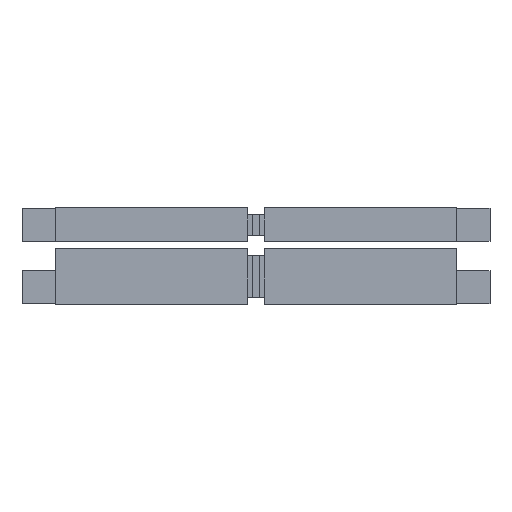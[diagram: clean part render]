
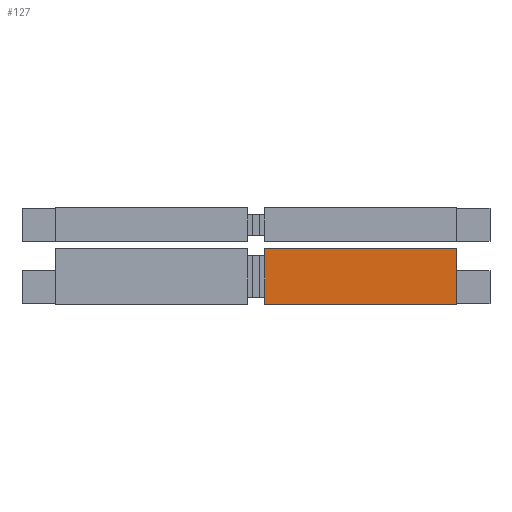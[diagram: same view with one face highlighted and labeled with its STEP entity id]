
A CAD part, left-side view. The second image highlights one B-rep face of the part: STEP entity #127.
In plain terms, the highlighted planar face has unit normal (-1, 0, 0).
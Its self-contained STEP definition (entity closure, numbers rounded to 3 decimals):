
#127 = ADVANCED_FACE('',(#128),#142,.F.);
#128 = FACE_BOUND('',#129,.F.);
#129 = EDGE_LOOP('',(#130,#165,#193,#221));
#130 = ORIENTED_EDGE('',*,*,#131,.F.);
#131 = EDGE_CURVE('',#132,#134,#136,.T.);
#132 = VERTEX_POINT('',#133);
#133 = CARTESIAN_POINT('',(-377.003,-1315.9,152.));
#134 = VERTEX_POINT('',#135);
#135 = CARTESIAN_POINT('',(-377.003,-1315.9,573.));
#136 = SURFACE_CURVE('',#137,(#141,#153),.PCURVE_S1.);
#137 = LINE('',#138,#139);
#138 = CARTESIAN_POINT('',(-377.003,-1315.9,152.));
#139 = VECTOR('',#140,1.);
#140 = DIRECTION('',(0.,0.,1.));
#141 = PCURVE('',#142,#147);
#142 = PLANE('',#143);
#143 = AXIS2_PLACEMENT_3D('',#144,#145,#146);
#144 = CARTESIAN_POINT('',(-377.003,-1315.9,152.));
#145 = DIRECTION('',(1.,0.,-0.));
#146 = DIRECTION('',(0.,0.,1.));
#147 = DEFINITIONAL_REPRESENTATION('',(#148),#152);
#148 = LINE('',#149,#150);
#149 = CARTESIAN_POINT('',(0.,0.));
#150 = VECTOR('',#151,1.);
#151 = DIRECTION('',(1.,0.));
#152 = ( GEOMETRIC_REPRESENTATION_CONTEXT(2) 
PARAMETRIC_REPRESENTATION_CONTEXT() REPRESENTATION_CONTEXT('2D SPACE',''
  ) );
#153 = PCURVE('',#154,#159);
#154 = PLANE('',#155);
#155 = AXIS2_PLACEMENT_3D('',#156,#157,#158);
#156 = CARTESIAN_POINT('',(-377.003,-1315.9,152.));
#157 = DIRECTION('',(-0.,1.,0.));
#158 = DIRECTION('',(0.,0.,1.));
#159 = DEFINITIONAL_REPRESENTATION('',(#160),#164);
#160 = LINE('',#161,#162);
#161 = CARTESIAN_POINT('',(0.,0.));
#162 = VECTOR('',#163,1.);
#163 = DIRECTION('',(1.,0.));
#164 = ( GEOMETRIC_REPRESENTATION_CONTEXT(2) 
PARAMETRIC_REPRESENTATION_CONTEXT() REPRESENTATION_CONTEXT('2D SPACE',''
  ) );
#165 = ORIENTED_EDGE('',*,*,#166,.T.);
#166 = EDGE_CURVE('',#132,#167,#169,.T.);
#167 = VERTEX_POINT('',#168);
#168 = CARTESIAN_POINT('',(-377.003,140.4,152.));
#169 = SURFACE_CURVE('',#170,(#174,#181),.PCURVE_S1.);
#170 = LINE('',#171,#172);
#171 = CARTESIAN_POINT('',(-377.003,-1315.9,152.));
#172 = VECTOR('',#173,1.);
#173 = DIRECTION('',(-0.,1.,0.));
#174 = PCURVE('',#142,#175);
#175 = DEFINITIONAL_REPRESENTATION('',(#176),#180);
#176 = LINE('',#177,#178);
#177 = CARTESIAN_POINT('',(0.,0.));
#178 = VECTOR('',#179,1.);
#179 = DIRECTION('',(0.,-1.));
#180 = ( GEOMETRIC_REPRESENTATION_CONTEXT(2) 
PARAMETRIC_REPRESENTATION_CONTEXT() REPRESENTATION_CONTEXT('2D SPACE',''
  ) );
#181 = PCURVE('',#182,#187);
#182 = PLANE('',#183);
#183 = AXIS2_PLACEMENT_3D('',#184,#185,#186);
#184 = CARTESIAN_POINT('',(-377.003,-1315.9,152.));
#185 = DIRECTION('',(0.,0.,1.));
#186 = DIRECTION('',(1.,0.,-0.));
#187 = DEFINITIONAL_REPRESENTATION('',(#188),#192);
#188 = LINE('',#189,#190);
#189 = CARTESIAN_POINT('',(0.,0.));
#190 = VECTOR('',#191,1.);
#191 = DIRECTION('',(0.,1.));
#192 = ( GEOMETRIC_REPRESENTATION_CONTEXT(2) 
PARAMETRIC_REPRESENTATION_CONTEXT() REPRESENTATION_CONTEXT('2D SPACE',''
  ) );
#193 = ORIENTED_EDGE('',*,*,#194,.T.);
#194 = EDGE_CURVE('',#167,#195,#197,.T.);
#195 = VERTEX_POINT('',#196);
#196 = CARTESIAN_POINT('',(-377.003,140.4,573.));
#197 = SURFACE_CURVE('',#198,(#202,#209),.PCURVE_S1.);
#198 = LINE('',#199,#200);
#199 = CARTESIAN_POINT('',(-377.003,140.4,152.));
#200 = VECTOR('',#201,1.);
#201 = DIRECTION('',(0.,0.,1.));
#202 = PCURVE('',#142,#203);
#203 = DEFINITIONAL_REPRESENTATION('',(#204),#208);
#204 = LINE('',#205,#206);
#205 = CARTESIAN_POINT('',(0.,-1456.3));
#206 = VECTOR('',#207,1.);
#207 = DIRECTION('',(1.,0.));
#208 = ( GEOMETRIC_REPRESENTATION_CONTEXT(2) 
PARAMETRIC_REPRESENTATION_CONTEXT() REPRESENTATION_CONTEXT('2D SPACE',''
  ) );
#209 = PCURVE('',#210,#215);
#210 = PLANE('',#211);
#211 = AXIS2_PLACEMENT_3D('',#212,#213,#214);
#212 = CARTESIAN_POINT('',(-377.003,140.4,152.));
#213 = DIRECTION('',(-0.,1.,0.));
#214 = DIRECTION('',(0.,0.,1.));
#215 = DEFINITIONAL_REPRESENTATION('',(#216),#220);
#216 = LINE('',#217,#218);
#217 = CARTESIAN_POINT('',(0.,0.));
#218 = VECTOR('',#219,1.);
#219 = DIRECTION('',(1.,0.));
#220 = ( GEOMETRIC_REPRESENTATION_CONTEXT(2) 
PARAMETRIC_REPRESENTATION_CONTEXT() REPRESENTATION_CONTEXT('2D SPACE',''
  ) );
#221 = ORIENTED_EDGE('',*,*,#222,.F.);
#222 = EDGE_CURVE('',#134,#195,#223,.T.);
#223 = SURFACE_CURVE('',#224,(#228,#235),.PCURVE_S1.);
#224 = LINE('',#225,#226);
#225 = CARTESIAN_POINT('',(-377.003,-1315.9,573.));
#226 = VECTOR('',#227,1.);
#227 = DIRECTION('',(-0.,1.,0.));
#228 = PCURVE('',#142,#229);
#229 = DEFINITIONAL_REPRESENTATION('',(#230),#234);
#230 = LINE('',#231,#232);
#231 = CARTESIAN_POINT('',(421.,0.));
#232 = VECTOR('',#233,1.);
#233 = DIRECTION('',(0.,-1.));
#234 = ( GEOMETRIC_REPRESENTATION_CONTEXT(2) 
PARAMETRIC_REPRESENTATION_CONTEXT() REPRESENTATION_CONTEXT('2D SPACE',''
  ) );
#235 = PCURVE('',#236,#241);
#236 = PLANE('',#237);
#237 = AXIS2_PLACEMENT_3D('',#238,#239,#240);
#238 = CARTESIAN_POINT('',(-377.003,-1315.9,573.));
#239 = DIRECTION('',(0.,0.,1.));
#240 = DIRECTION('',(1.,0.,-0.));
#241 = DEFINITIONAL_REPRESENTATION('',(#242),#246);
#242 = LINE('',#243,#244);
#243 = CARTESIAN_POINT('',(0.,0.));
#244 = VECTOR('',#245,1.);
#245 = DIRECTION('',(0.,1.));
#246 = ( GEOMETRIC_REPRESENTATION_CONTEXT(2) 
PARAMETRIC_REPRESENTATION_CONTEXT() REPRESENTATION_CONTEXT('2D SPACE',''
  ) );
